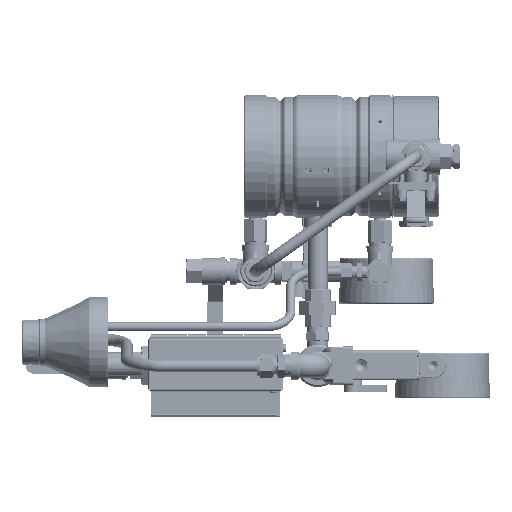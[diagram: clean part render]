
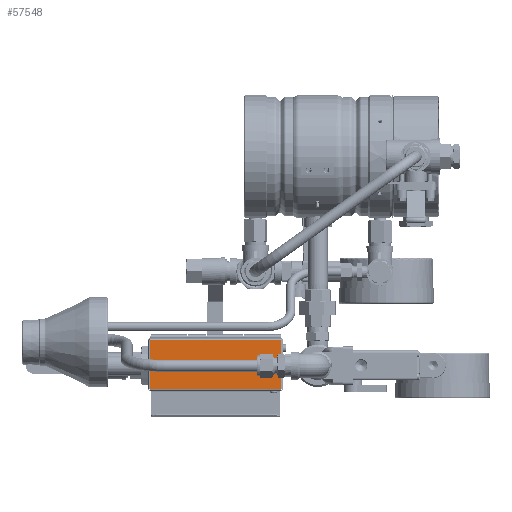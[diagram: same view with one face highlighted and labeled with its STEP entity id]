
A CAD part, front view. The second image highlights one B-rep face of the part: STEP entity #57548.
In plain terms, the highlighted planar face has unit normal (-0.001, -1, 0) as drawn and (-1, 0, 0) by its records, which use the part's own axes.
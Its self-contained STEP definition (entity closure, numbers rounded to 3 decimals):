
#4748=LINE('',#101583,#8851);
#4849=LINE('',#101924,#8952);
#4860=LINE('',#102102,#8963);
#4866=LINE('',#102143,#8969);
#8851=VECTOR('',#74333,10.);
#8952=VECTOR('',#74608,10.);
#8963=VECTOR('',#74631,10.);
#8969=VECTOR('',#74667,10.);
#13028=PLANE('',#64507);
#16901=FACE_OUTER_BOUND('',#21141,.T.);
#21141=EDGE_LOOP('',(#45934,#45935,#45936,#45937));
#28087=VERTEX_POINT('',#101380);
#28095=VERTEX_POINT('',#101565);
#28177=VERTEX_POINT('',#101905);
#28182=VERTEX_POINT('',#102085);
#34470=EDGE_CURVE('',#28095,#28087,#4748,.T.);
#34607=EDGE_CURVE('',#28087,#28177,#4849,.T.);
#34625=EDGE_CURVE('',#28182,#28177,#4860,.T.);
#34636=EDGE_CURVE('',#28095,#28182,#4866,.T.);
#45934=ORIENTED_EDGE('',*,*,#34625,.T.);
#45935=ORIENTED_EDGE('',*,*,#34607,.F.);
#45936=ORIENTED_EDGE('',*,*,#34470,.F.);
#45937=ORIENTED_EDGE('',*,*,#34636,.T.);
#57548=ADVANCED_FACE('',(#16901),#13028,.F.);
#64507=AXIS2_PLACEMENT_3D('',#102144,#74668,#74669);
#74333=DIRECTION('',(0.,0.,-1.));
#74608=DIRECTION('',(0.,1.,0.));
#74631=DIRECTION('',(0.,0.,-1.));
#74667=DIRECTION('',(0.,1.,0.));
#74668=DIRECTION('center_axis',(1.,0.,0.));
#74669=DIRECTION('ref_axis',(0.,0.,-1.));
#101380=CARTESIAN_POINT('',(-53.036,-69.7,1.8));
#101565=CARTESIAN_POINT('',(-53.036,-69.7,53.7));
#101583=CARTESIAN_POINT('',(-53.036,-69.7,14.775));
#101905=CARTESIAN_POINT('',(-53.036,69.7,1.8));
#101924=CARTESIAN_POINT('',(-53.036,71.5,1.8));
#102085=CARTESIAN_POINT('',(-53.036,69.7,53.7));
#102102=CARTESIAN_POINT('',(-53.036,69.7,14.775));
#102143=CARTESIAN_POINT('',(-53.036,53.625,53.7));
#102144=CARTESIAN_POINT('Origin',(-53.036,35.75,27.75));
